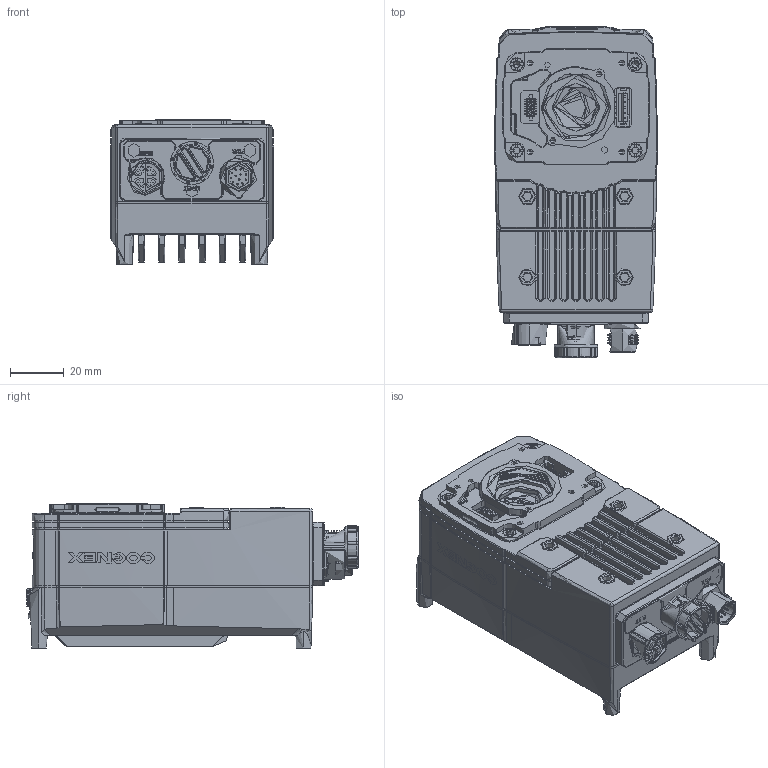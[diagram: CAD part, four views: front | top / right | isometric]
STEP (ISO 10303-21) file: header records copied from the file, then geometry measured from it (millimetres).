
FILE_DESCRIPTION (( 'STEP AP214' ), '1' );
FILE_NAME ('IS019-01_5-8-19.STEP', '2019-05-10T22:10:33', ( '' ), ( '' ), 'SwSTEP 2.0', 'SolidWorks 2018', '' );
FILE_SCHEMA (( 'AUTOMOTIVE_DESIGN' ));
Length unit declared in the file: millimetre
Products named in the file (1): IS019-01_5-8-19
Bounding box: 60.5 x 123.06 x 53.4 mm (x, y, z)
Volume: 256127.7 mm3; surface area: 74605.7 mm2
Topology: 4 solids, 57 shells, 6866 faces, 17868 edges, 11263 vertices
Faces by surface type: plane 2315, cylinder 1802, bspline 1706, cone 628, torus 332, sphere 83
Entity records: 353429 total; most frequent: CARTESIAN_POINT 146313, ORIENTED_EDGE 35464, DIRECTION 26865, EDGE_CURVE 17732, VERTEX_POINT 11263, AXIS2_PLACEMENT_3D 9568, VECTOR 7729, LINE 7729
